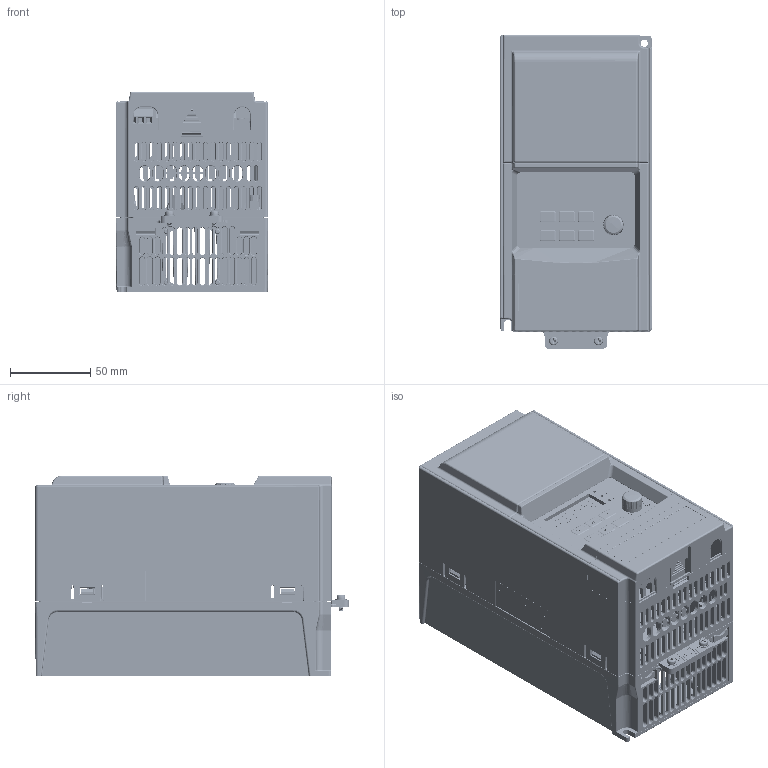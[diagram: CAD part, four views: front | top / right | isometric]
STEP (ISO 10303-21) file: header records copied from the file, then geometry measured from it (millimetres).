
FILE_DESCRIPTION((''),'2;1');
FILE_NAME('ASM_VFC3210_C','2018-11-06T14:09:35',('MEG2XI'),(''),'CREO PARAMETRIC BY PTC INC, 2017260','CREO PARAMETRIC BY PTC INC, 2017260','');
FILE_SCHEMA(('AUTOMOTIVE_DESIGN { 1 0 10303 214 1 1 1 1 }'));
Products named in the file (12): VFC3210_IOCOVER; YCP11-07; PANEL_FLIM; PANEL_XUANNIU; VFC3210_C_HOUSING; VFC3210_C_BACKCOVER; VFC3210_C_HEATSINK; WARNING_FRONT; WARNING_LEFT; VFC3210_C_FANBRACKET; LDZHJ_SZCYZT_M3X8; ASM_VFC3210_C
Assembly tree (12 placements, depth 2):
  ASM_VFC3210_C
    VFC3210_IOCOVER
    YCP11-07
    PANEL_FLIM
    PANEL_XUANNIU
    VFC3210_C_HOUSING
    VFC3210_C_BACKCOVER
    VFC3210_C_HEATSINK
    WARNING_FRONT
    WARNING_LEFT
    VFC3210_C_FANBRACKET
    LDZHJ_SZCYZT_M3X8  x2
Bounding box: 95.08 x 196.02 x 125.21 mm (x, y, z)
Volume: 426321.6 mm3; surface area: 401380.9 mm2
Topology: 11 solids, 1651 shells, 11771 faces, 34001 edges, 23904 vertices
Faces by surface type: plane 8120, cylinder 1793, bspline 616, cone 524, torus 465, extrusion 178, sphere 75
Entity records: 539540 total; most frequent: CARTESIAN_POINT 121363, DIRECTION 57596, ORIENTED_EDGE 57241, PRESENTATION_STYLE_ASSIGNMENT 34567, EDGE_CURVE 33742, STYLED_ITEM 32208, CURVE_STYLE 30626, VECTOR 26188
